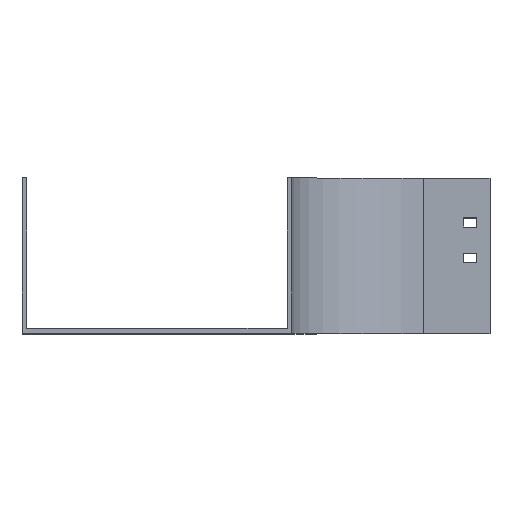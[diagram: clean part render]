
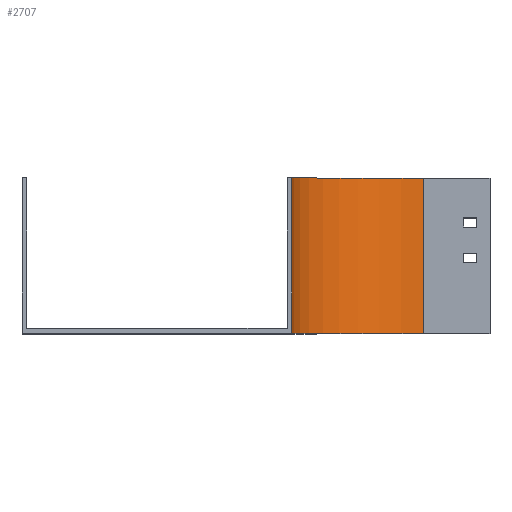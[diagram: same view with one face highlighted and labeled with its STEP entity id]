
A CAD part, top view. The second image highlights one B-rep face of the part: STEP entity #2707.
In plain terms, the highlighted cylindrical face has radius 100 mm (diameter 200 mm), a partial arc.
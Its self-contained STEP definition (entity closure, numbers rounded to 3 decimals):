
#8 = LINE ( 'NONE', #856, #2542 ) ;
#46 = LINE ( 'NONE', #892, #2318 ) ;
#50 = DIRECTION ( 'NONE',  ( 0., -1., 0. ) ) ;
#87 = CIRCLE ( 'NONE', #753, 100. ) ;
#107 = EDGE_CURVE ( 'NONE', #916, #1686, #87, .T. ) ;
#180 = EDGE_LOOP ( 'NONE', ( #2499, #504, #2188, #305 ) ) ;
#190 = AXIS2_PLACEMENT_3D ( 'NONE', #1024, #386, #864 ) ;
#292 = DIRECTION ( 'NONE',  ( 0., 0., -1. ) ) ;
#305 = ORIENTED_EDGE ( 'NONE', *, *, #772, .T. ) ;
#350 = CARTESIAN_POINT ( 'NONE',  ( -100., 117.5, 0. ) ) ;
#386 = DIRECTION ( 'NONE',  ( 0., -1., 0. ) ) ;
#504 = ORIENTED_EDGE ( 'NONE', *, *, #2060, .F. ) ;
#591 = CARTESIAN_POINT ( 'NONE',  ( 0., 117.5, 0. ) ) ;
#709 = FACE_OUTER_BOUND ( 'NONE', #180, .T. ) ;
#753 = AXIS2_PLACEMENT_3D ( 'NONE', #591, #1893, #2010 ) ;
#772 = EDGE_CURVE ( 'NONE', #916, #1125, #8, .T. ) ;
#856 = CARTESIAN_POINT ( 'NONE',  ( -100., 117.5, 0. ) ) ;
#864 = DIRECTION ( 'NONE',  ( 0., 0., -1. ) ) ;
#892 = CARTESIAN_POINT ( 'NONE',  ( 0., 117.5, -100. ) ) ;
#905 = CARTESIAN_POINT ( 'NONE',  ( 0., 117.5, 0. ) ) ;
#916 = VERTEX_POINT ( 'NONE', #350 ) ;
#1024 = CARTESIAN_POINT ( 'NONE',  ( 0., 0., 0. ) ) ;
#1125 = VERTEX_POINT ( 'NONE', #2519 ) ;
#1342 = DIRECTION ( 'NONE',  ( 0., -1., 0. ) ) ;
#1390 = CARTESIAN_POINT ( 'NONE',  ( 0., 0., -100. ) ) ;
#1468 = CARTESIAN_POINT ( 'NONE',  ( 0., 117.5, -100. ) ) ;
#1496 = DIRECTION ( 'NONE',  ( 0., -1., 0. ) ) ;
#1686 = VERTEX_POINT ( 'NONE', #1468 ) ;
#1828 = CIRCLE ( 'NONE', #190, 100. ) ;
#1893 = DIRECTION ( 'NONE',  ( 0., -1., 0. ) ) ;
#1938 = CYLINDRICAL_SURFACE ( 'NONE', #2100, 100. ) ;
#2010 = DIRECTION ( 'NONE',  ( 0., 0., -1. ) ) ;
#2060 = EDGE_CURVE ( 'NONE', #1686, #2508, #46, .T. ) ;
#2100 = AXIS2_PLACEMENT_3D ( 'NONE', #905, #1342, #292 ) ;
#2188 = ORIENTED_EDGE ( 'NONE', *, *, #107, .F. ) ;
#2200 = EDGE_CURVE ( 'NONE', #1125, #2508, #1828, .T. ) ;
#2318 = VECTOR ( 'NONE', #1496, 1000. ) ;
#2499 = ORIENTED_EDGE ( 'NONE', *, *, #2200, .T. ) ;
#2508 = VERTEX_POINT ( 'NONE', #1390 ) ;
#2519 = CARTESIAN_POINT ( 'NONE',  ( -100., 0., 0. ) ) ;
#2542 = VECTOR ( 'NONE', #50, 1000. ) ;
#2707 = ADVANCED_FACE ( 'NONE', ( #709 ), #1938, .F. ) ;
